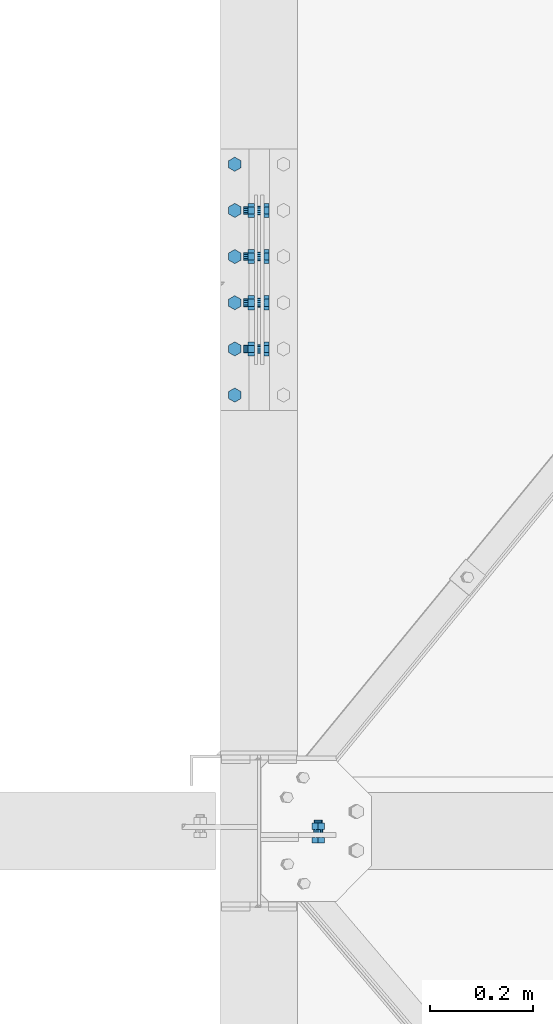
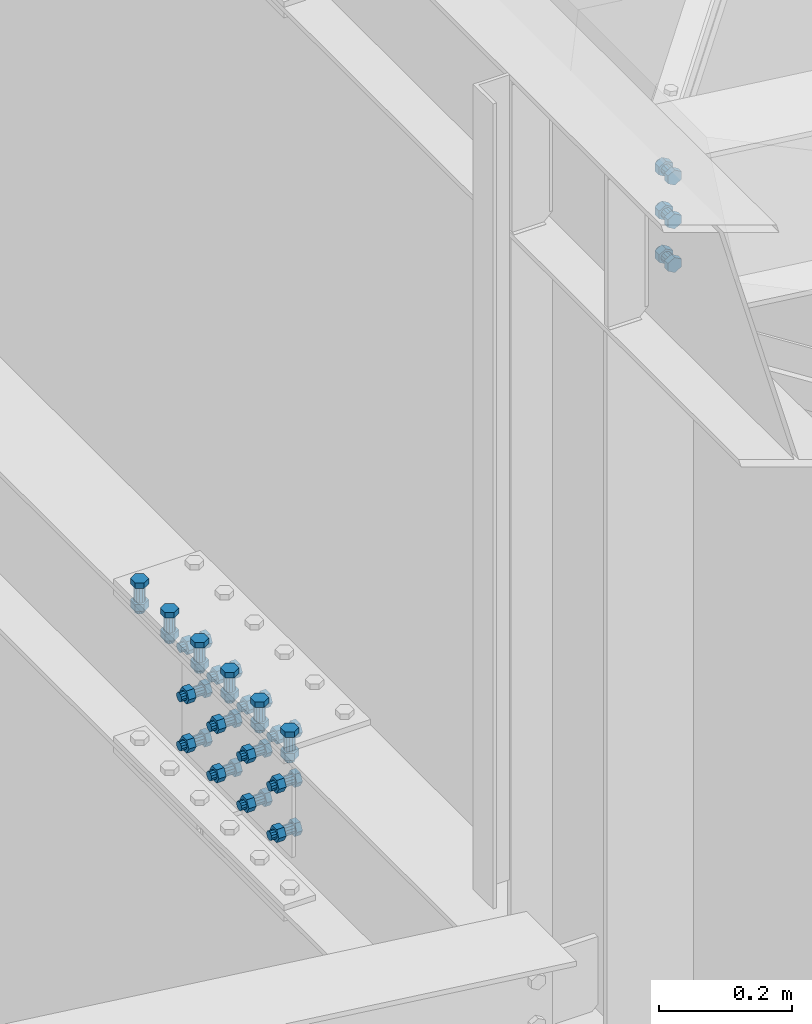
# One storey, part 375 of 3134: 5 mechanical fasteners, 3 elements without a shape of their own.
"""IFC2X3 building model written with IfcOpenShell, lengths in millimetres."""

from ifc_helpers import new_model, si_unit, frame, origin_with_axes, place, context, subcontext, project, spatial, faceted_brep, source, transform, mapped, material, type_object, element, aggregate, save


model = new_model("IFC2X3")

# Units and contexts
model_context = context("Model", 3, precision=1e-05, world=origin_with_axes())
body_context = subcontext(model_context, "Body", "Model", "MODEL_VIEW")
ifc_project = project(units=[si_unit("LENGTHUNIT", "METRE", prefix="MILLI"), si_unit("AREAUNIT", "SQUARE_METRE"), si_unit("VOLUMEUNIT", "CUBIC_METRE"), si_unit("MASSUNIT", "GRAM", prefix="KILO"), si_unit("TIMEUNIT", "SECOND"), si_unit("PLANEANGLEUNIT", "RADIAN"), si_unit("SOLIDANGLEUNIT", "STERADIAN"), si_unit("THERMODYNAMICTEMPERATUREUNIT", "DEGREE_CELSIUS"), si_unit("LUMINOUSINTENSITYUNIT", "LUMEN")], contexts=[model_context])

# Site, building, storey
site_placement = place(None, origin_with_axes())
site = spatial("IfcSite", under=ifc_project, at=site_placement, CompositionType="ELEMENT")
building_placement = place(site_placement, origin_with_axes())
building = spatial("IfcBuilding", under=site, at=building_placement, Name="Undefined", CompositionType="ELEMENT")
storey_placement = place(building_placement, origin_with_axes())
storey = spatial("IfcBuildingStorey", under=building, at=storey_placement, Name="Undefined", CompositionType="ELEMENT", Elevation=0.0)

# Assembly, mechanical fastener
assembly_1_placement = place(storey_placement, origin_with_axes())
assembly_1 = element("IfcElementAssembly", 1, at=assembly_1_placement, inside=storey, Name="300", AssemblyPlace="NOTDEFINED", PredefinedType="RIGID_FRAME")
ifc_material = material(Name="8.8")
mechanical_fastener_type = type_object("IfcMechanicalFastenerType", Name="Bolt assembly")
shared_shape_1 = source(origin_with_axes(), body_context, "Body", "Brep", [
    faceted_brep([(13.856406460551, -23.0499999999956, 0.0), (6.92820323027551, -23.0499999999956, 12.0), (-6.92820323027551, -23.0499999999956, 12.0), (-13.856406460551, -23.0499999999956, 1.69692038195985e-15), (-6.92820323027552, -23.0499999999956, -12.0), (6.9282032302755, -23.0499999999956, -12.0), (6.9282032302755, -13.0499999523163, -12.0), (-6.92820323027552, -13.0499999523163, -12.0), (-13.856406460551, -13.0499999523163, 1.69692038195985e-15), (-6.92820323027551, -13.0499999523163, 12.0), (6.92820323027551, -13.0499999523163, 12.0), (13.856406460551, -13.0499999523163, 0.0), (8.0, -13.0499999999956, 0.0), (6.92820323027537, -13.0499999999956, 4.00000000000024), (3.99999999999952, -13.0499999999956, 6.92820323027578), (-8.29068785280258e-13, -13.0499999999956, 8.0), (-4.00000000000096, -13.0499999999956, 6.92820323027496), (-6.9282032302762, -13.0499999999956, 3.99999999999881), (-8.0, -13.0499999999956, -1.65813757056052e-12), (-6.92820323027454, -13.0499999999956, -4.00000000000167), (-3.99999999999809, -13.0499999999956, -6.92820323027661), (2.47832457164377e-12, -13.0499999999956, -8.0), (4.00000000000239, -13.0499999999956, -6.92820323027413), (6.92820323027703, -13.0499999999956, -3.99999999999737), (6.92820323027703, 21.9500000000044, -3.99999999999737), (4.00000000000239, 21.9500000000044, -6.92820323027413), (2.47832457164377e-12, 21.9500000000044, -8.0), (-3.99999999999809, 21.9500000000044, -6.92820323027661), (-6.92820323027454, 21.9500000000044, -4.00000000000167), (-8.0, 21.9500000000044, -1.65813757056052e-12), (-6.9282032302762, 21.9500000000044, 3.99999999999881), (-4.00000000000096, 21.9500000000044, 6.92820323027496), (-8.29068785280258e-13, 21.9500000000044, 8.0), (3.99999999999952, 21.9500000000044, 6.92820323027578), (6.92820323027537, 21.9500000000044, 4.00000000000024), (8.0, 21.9500000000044, 0.0), (13.856406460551, 3.04999995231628, 0.0), (6.92820323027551, 3.04999995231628, 12.0), (-6.92820323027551, 3.04999995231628, 12.0), (-13.856406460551, 3.04999995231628, 1.69692038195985e-15), (-6.92820323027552, 3.04999995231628, -12.0), (6.9282032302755, 3.04999995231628, -12.0), (6.9282032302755, 16.0499999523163, -12.0), (-6.92820323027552, 16.0499999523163, -12.0), (-13.856406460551, 16.0499999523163, 1.69692038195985e-15), (-6.92820323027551, 16.0499999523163, 12.0), (6.92820323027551, 16.0499999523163, 12.0), (13.856406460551, 16.0499999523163, 0.0)], [[[0, 1, 2, 3, 4, 5]], [[6, 7, 8, 9, 10, 11]], [[0, 11, 10, 1]], [[1, 10, 9, 2]], [[2, 9, 8, 3]], [[3, 8, 7, 4]], [[4, 7, 6, 5]], [[5, 6, 11, 0]], [[12, 13, 14, 15, 16, 17, 18, 19, 20, 21, 22, 23]], [[24, 25, 26, 27, 28, 29, 30, 31, 32, 33, 34, 35]], [[12, 35, 34, 13]], [[13, 34, 33, 14]], [[14, 33, 32, 15]], [[15, 32, 31, 16]], [[16, 31, 30, 17]], [[17, 30, 29, 18]], [[18, 29, 28, 19]], [[19, 28, 27, 20]], [[20, 27, 26, 21]], [[21, 26, 25, 22]], [[22, 25, 24, 23]], [[23, 24, 35, 12]], [[36, 37, 38, 39, 40, 41]], [[42, 43, 44, 45, 46, 47]], [[36, 47, 46, 37]], [[37, 46, 45, 38]], [[38, 45, 44, 39]], [[39, 44, 43, 40]], [[40, 43, 42, 41]], [[41, 42, 47, 36]]]),
    faceted_brep([(9.0, -12.9499999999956, 0.0), (7.79422863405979, -12.9499999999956, 4.50000000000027), (4.49999999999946, -12.9499999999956, 7.79422863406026), (-9.3270238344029e-13, -12.9499999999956, 9.0), (-4.50000000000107, -12.9499999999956, 7.79422863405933), (-7.79422863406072, -12.9499999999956, 4.49999999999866), (-9.0, -12.9499999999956, -1.86540476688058e-12), (-7.79422863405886, -12.9499999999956, -4.50000000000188), (-4.49999999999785, -12.9499999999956, -7.79422863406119), (2.78811514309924e-12, -12.9499999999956, -9.0), (4.50000000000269, -12.9499999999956, -7.7942286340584), (7.79422863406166, -12.9499999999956, -4.49999999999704), (7.79422863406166, -2.94999995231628, -4.49999999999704), (4.50000000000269, -2.94999995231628, -7.7942286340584), (2.78811514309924e-12, -2.94999995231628, -9.0), (-4.49999999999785, -2.94999995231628, -7.79422863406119), (-7.79422863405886, -2.94999995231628, -4.50000000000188), (-9.0, -2.94999995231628, -1.86540476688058e-12), (-7.79422863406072, -2.94999995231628, 4.49999999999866), (-4.50000000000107, -2.94999995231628, 7.79422863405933), (-9.3270238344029e-13, -2.94999995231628, 9.0), (4.49999999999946, -2.94999995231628, 7.79422863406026), (7.79422863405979, -2.94999995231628, 4.50000000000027), (9.0, -2.94999995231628, 0.0), (9.0, -3.14999995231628, 0.0), (7.79422863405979, -3.14999995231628, 4.50000000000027), (4.49999999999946, -3.14999995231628, 7.79422863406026), (-9.3270238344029e-13, -3.14999995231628, 9.0), (-4.50000000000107, -3.14999995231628, 7.79422863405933), (-7.79422863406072, -3.14999995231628, 4.49999999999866), (-9.0, -3.14999995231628, -1.86540476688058e-12), (-7.79422863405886, -3.14999995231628, -4.50000000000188), (-4.49999999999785, -3.14999995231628, -7.79422863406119), (2.78811514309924e-12, -3.14999995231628, -9.0), (4.50000000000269, -3.14999995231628, -7.7942286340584), (7.79422863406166, -3.14999995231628, -4.49999999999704), (7.79422863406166, 3.04999995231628, -4.49999999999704), (4.50000000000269, 3.04999995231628, -7.7942286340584), (2.78811514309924e-12, 3.04999995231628, -9.0), (-4.49999999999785, 3.04999995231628, -7.79422863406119), (-7.79422863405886, 3.04999995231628, -4.50000000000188), (-9.0, 3.04999995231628, -1.86540476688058e-12), (-7.79422863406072, 3.04999995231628, 4.49999999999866), (-4.50000000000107, 3.04999995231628, 7.79422863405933), (-9.3270238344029e-13, 3.04999995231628, 9.0), (4.49999999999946, 3.04999995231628, 7.79422863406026), (7.79422863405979, 3.04999995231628, 4.50000000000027), (9.0, 3.04999995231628, 0.0)], [[[0, 1, 2, 3, 4, 5, 6, 7, 8, 9, 10, 11]], [[12, 13, 14, 15, 16, 17, 18, 19, 20, 21, 22, 23]], [[0, 23, 22, 1]], [[1, 22, 21, 2]], [[2, 21, 20, 3]], [[3, 20, 19, 4]], [[4, 19, 18, 5]], [[5, 18, 17, 6]], [[6, 17, 16, 7]], [[7, 16, 15, 8]], [[8, 15, 14, 9]], [[9, 14, 13, 10]], [[10, 13, 12, 11]], [[11, 12, 23, 0]], [[24, 25, 26, 27, 28, 29, 30, 31, 32, 33, 34, 35]], [[36, 37, 38, 39, 40, 41, 42, 43, 44, 45, 46, 47]], [[24, 47, 46, 25]], [[25, 46, 45, 26]], [[26, 45, 44, 27]], [[27, 44, 43, 28]], [[28, 43, 42, 29]], [[29, 42, 41, 30]], [[30, 41, 40, 31]], [[31, 40, 39, 32]], [[32, 39, 38, 33]], [[33, 38, 37, 34]], [[34, 37, 36, 35]], [[35, 36, 47, 24]]]),
])
mechanical_fastener_1_placement = place(assembly_1_placement, frame((67665.0000000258, 27250.0, 5735.35014949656), z_axis=(1.0, 0.0, 0.0), x_axis=(0.0, 0.0, -1.0)))
mechanical_fastener_1 = element("IfcMechanicalFastener", 2, at=mechanical_fastener_1_placement, type_object=mechanical_fastener_type, material=ifc_material, Name="Bolt assembly", NominalDiameter=16.0, NominalLength=35.0, context=body_context, shape_type="MappedRepresentation", body=[
    mapped(shared_shape_1, transform((0.0, 0.0, 0.0))),
    mapped(shared_shape_1, transform((80.0, 0.0, 0.0))),
    mapped(shared_shape_1, transform((160.0, 0.0, 0.0))),
])
aggregate(assembly_1, [mechanical_fastener_1])

assembly_2_placement = place(storey_placement, origin_with_axes())
assembly_2 = element("IfcElementAssembly", 3, at=assembly_2_placement, inside=storey, Name="300", AssemblyPlace="NOTDEFINED", PredefinedType="RIGID_FRAME")
shared_shape_2 = source(origin_with_axes(), body_context, "Body", "Brep", [
    faceted_brep([(13.856406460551, -19.0499999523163, 0.0), (6.92820323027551, -19.0499999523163, 12.0), (-6.92820323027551, -19.0499999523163, 12.0), (-13.856406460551, -19.0499999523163, 1.69692038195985e-15), (-6.92820323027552, -19.0499999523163, -12.0), (6.9282032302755, -19.0499999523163, -12.0), (6.9282032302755, -9.04999995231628, -12.0), (-6.92820323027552, -9.04999995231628, -12.0), (-13.856406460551, -9.04999995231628, 1.69692038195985e-15), (-6.92820323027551, -9.04999995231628, 12.0), (6.92820323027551, -9.04999995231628, 12.0), (13.856406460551, -9.04999995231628, 0.0), (8.0, -9.04999995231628, 0.0), (6.92820323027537, -9.04999995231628, 4.00000000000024), (3.99999999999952, -9.04999995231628, 6.92820323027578), (-8.29068785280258e-13, -9.04999995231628, 8.0), (-4.00000000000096, -9.04999995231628, 6.92820323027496), (-6.9282032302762, -9.04999995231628, 3.99999999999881), (-8.0, -9.04999995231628, -1.65813757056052e-12), (-6.92820323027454, -9.04999995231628, -4.00000000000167), (-3.99999999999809, -9.04999995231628, -6.92820323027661), (2.47832457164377e-12, -9.04999995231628, -8.0), (4.00000000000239, -9.04999995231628, -6.92820323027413), (6.92820323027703, -9.04999995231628, -3.99999999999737), (6.92820323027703, 30.9500000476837, -3.99999999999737), (4.00000000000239, 30.9500000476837, -6.92820323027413), (2.47832457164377e-12, 30.9500000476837, -8.0), (-3.99999999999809, 30.9500000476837, -6.92820323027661), (-6.92820323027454, 30.9500000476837, -4.00000000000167), (-8.0, 30.9500000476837, -1.65813757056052e-12), (-6.9282032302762, 30.9500000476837, 3.99999999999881), (-4.00000000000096, 30.9500000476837, 6.92820323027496), (-8.29068785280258e-13, 30.9500000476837, 8.0), (3.99999999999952, 30.9500000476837, 6.92820323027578), (6.92820323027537, 30.9500000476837, 4.00000000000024), (8.0, 30.9500000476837, 0.0), (13.856406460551, 9.04999995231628, 0.0), (6.92820323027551, 9.04999995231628, 12.0), (-6.92820323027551, 9.04999995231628, 12.0), (-13.856406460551, 9.04999995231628, 1.69692038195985e-15), (-6.92820323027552, 9.04999995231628, -12.0), (6.9282032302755, 9.04999995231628, -12.0), (6.9282032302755, 22.0499999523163, -12.0), (-6.92820323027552, 22.0499999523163, -12.0), (-13.856406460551, 22.0499999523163, 1.69692038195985e-15), (-6.92820323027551, 22.0499999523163, 12.0), (6.92820323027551, 22.0499999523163, 12.0), (13.856406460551, 22.0499999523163, 0.0)], [[[0, 1, 2, 3, 4, 5]], [[6, 7, 8, 9, 10, 11]], [[0, 11, 10, 1]], [[1, 10, 9, 2]], [[2, 9, 8, 3]], [[3, 8, 7, 4]], [[4, 7, 6, 5]], [[5, 6, 11, 0]], [[12, 13, 14, 15, 16, 17, 18, 19, 20, 21, 22, 23]], [[24, 25, 26, 27, 28, 29, 30, 31, 32, 33, 34, 35]], [[12, 35, 34, 13]], [[13, 34, 33, 14]], [[14, 33, 32, 15]], [[15, 32, 31, 16]], [[16, 31, 30, 17]], [[17, 30, 29, 18]], [[18, 29, 28, 19]], [[19, 28, 27, 20]], [[20, 27, 26, 21]], [[21, 26, 25, 22]], [[22, 25, 24, 23]], [[23, 24, 35, 12]], [[36, 37, 38, 39, 40, 41]], [[42, 43, 44, 45, 46, 47]], [[36, 47, 46, 37]], [[37, 46, 45, 38]], [[38, 45, 44, 39]], [[39, 44, 43, 40]], [[40, 43, 42, 41]], [[41, 42, 47, 36]]]),
    faceted_brep([(9.0, -8.94999995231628, 0.0), (7.79422863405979, -8.94999995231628, 4.50000000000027), (4.49999999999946, -8.94999995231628, 7.79422863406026), (-9.3270238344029e-13, -8.94999995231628, 9.0), (-4.50000000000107, -8.94999995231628, 7.79422863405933), (-7.79422863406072, -8.94999995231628, 4.49999999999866), (-9.0, -8.94999995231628, -1.86540476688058e-12), (-7.79422863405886, -8.94999995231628, -4.50000000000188), (-4.49999999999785, -8.94999995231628, -7.79422863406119), (2.78811514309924e-12, -8.94999995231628, -9.0), (4.50000000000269, -8.94999995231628, -7.7942286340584), (7.79422863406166, -8.94999995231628, -4.49999999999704), (7.79422863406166, -2.94999995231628, -4.49999999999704), (4.50000000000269, -2.94999995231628, -7.7942286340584), (2.78811514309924e-12, -2.94999995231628, -9.0), (-4.49999999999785, -2.94999995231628, -7.79422863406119), (-7.79422863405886, -2.94999995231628, -4.50000000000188), (-9.0, -2.94999995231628, -1.86540476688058e-12), (-7.79422863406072, -2.94999995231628, 4.49999999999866), (-4.50000000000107, -2.94999995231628, 7.79422863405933), (-9.3270238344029e-13, -2.94999995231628, 9.0), (4.49999999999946, -2.94999995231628, 7.79422863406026), (7.79422863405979, -2.94999995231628, 4.50000000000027), (9.0, -2.94999995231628, 0.0), (9.0, -3.04999995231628, 0.0), (7.79422863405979, -3.04999995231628, 4.50000000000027), (4.49999999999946, -3.04999995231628, 7.79422863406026), (-9.3270238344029e-13, -3.04999995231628, 9.0), (-4.50000000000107, -3.04999995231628, 7.79422863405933), (-7.79422863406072, -3.04999995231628, 4.49999999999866), (-9.0, -3.04999995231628, -1.86540476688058e-12), (-7.79422863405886, -3.04999995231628, -4.50000000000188), (-4.49999999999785, -3.04999995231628, -7.79422863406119), (2.78811514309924e-12, -3.04999995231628, -9.0), (4.50000000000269, -3.04999995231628, -7.7942286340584), (7.79422863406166, -3.04999995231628, -4.49999999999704), (7.79422863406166, 3.04999995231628, -4.49999999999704), (4.50000000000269, 3.04999995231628, -7.7942286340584), (2.78811514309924e-12, 3.04999995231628, -9.0), (-4.49999999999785, 3.04999995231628, -7.79422863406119), (-7.79422863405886, 3.04999995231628, -4.50000000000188), (-9.0, 3.04999995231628, -1.86540476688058e-12), (-7.79422863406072, 3.04999995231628, 4.49999999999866), (-4.50000000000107, 3.04999995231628, 7.79422863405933), (-9.3270238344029e-13, 3.04999995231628, 9.0), (4.49999999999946, 3.04999995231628, 7.79422863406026), (7.79422863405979, 3.04999995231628, 4.50000000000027), (9.0, 3.04999995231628, 0.0), (9.0, 2.95000000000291, 0.0), (7.79422863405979, 2.95000000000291, 4.50000000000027), (4.49999999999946, 2.95000000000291, 7.79422863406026), (-9.3270238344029e-13, 2.95000000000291, 9.0), (-4.50000000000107, 2.95000000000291, 7.79422863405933), (-7.79422863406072, 2.95000000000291, 4.49999999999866), (-9.0, 2.95000000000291, -1.86540476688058e-12), (-7.79422863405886, 2.95000000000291, -4.50000000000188), (-4.49999999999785, 2.95000000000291, -7.79422863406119), (2.78811514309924e-12, 2.95000000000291, -9.0), (4.50000000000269, 2.95000000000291, -7.7942286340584), (7.79422863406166, 2.95000000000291, -4.49999999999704), (7.79422863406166, 9.04999995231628, -4.49999999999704), (4.50000000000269, 9.04999995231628, -7.7942286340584), (2.78811514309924e-12, 9.04999995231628, -9.0), (-4.49999999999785, 9.04999995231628, -7.79422863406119), (-7.79422863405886, 9.04999995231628, -4.50000000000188), (-9.0, 9.04999995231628, -1.86540476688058e-12), (-7.79422863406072, 9.04999995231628, 4.49999999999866), (-4.50000000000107, 9.04999995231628, 7.79422863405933), (-9.3270238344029e-13, 9.04999995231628, 9.0), (4.49999999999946, 9.04999995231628, 7.79422863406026), (7.79422863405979, 9.04999995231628, 4.50000000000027), (9.0, 9.04999995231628, 0.0)], [[[0, 1, 2, 3, 4, 5, 6, 7, 8, 9, 10, 11]], [[12, 13, 14, 15, 16, 17, 18, 19, 20, 21, 22, 23]], [[0, 23, 22, 1]], [[1, 22, 21, 2]], [[2, 21, 20, 3]], [[3, 20, 19, 4]], [[4, 19, 18, 5]], [[5, 18, 17, 6]], [[6, 17, 16, 7]], [[7, 16, 15, 8]], [[8, 15, 14, 9]], [[9, 14, 13, 10]], [[10, 13, 12, 11]], [[11, 12, 23, 0]], [[24, 25, 26, 27, 28, 29, 30, 31, 32, 33, 34, 35]], [[36, 37, 38, 39, 40, 41, 42, 43, 44, 45, 46, 47]], [[24, 47, 46, 25]], [[25, 46, 45, 26]], [[26, 45, 44, 27]], [[27, 44, 43, 28]], [[28, 43, 42, 29]], [[29, 42, 41, 30]], [[30, 41, 40, 31]], [[31, 40, 39, 32]], [[32, 39, 38, 33]], [[33, 38, 37, 34]], [[34, 37, 36, 35]], [[35, 36, 47, 24]], [[48, 49, 50, 51, 52, 53, 54, 55, 56, 57, 58, 59]], [[60, 61, 62, 63, 64, 65, 66, 67, 68, 69, 70, 71]], [[48, 71, 70, 49]], [[49, 70, 69, 50]], [[50, 69, 68, 51]], [[51, 68, 67, 52]], [[52, 67, 66, 53]], [[53, 66, 65, 54]], [[54, 65, 64, 55]], [[55, 64, 63, 56]], [[56, 63, 62, 57]], [[57, 62, 61, 58]], [[58, 61, 60, 59]], [[59, 60, 71, 48]]]),
])
mechanical_fastener_2_placement = place(assembly_2_placement, frame((67550.0, 28369.9, 4088.5), z_axis=(0.0, 0.0, 1.0), x_axis=(0.0, 1.0, 0.0)))
mechanical_fastener_2 = element("IfcMechanicalFastener", 4, at=mechanical_fastener_2_placement, type_object=mechanical_fastener_type, material=ifc_material, Name="Bolt assembly", NominalDiameter=16.0, NominalLength=40.0, context=body_context, shape_type="MappedRepresentation", body=[
    mapped(shared_shape_2, transform((0.0, 0.0, -90.0))),
    mapped(shared_shape_2, transform((90.0, 0.0, -90.0))),
    mapped(shared_shape_2, transform((0.0, 0.0, 0.0))),
    mapped(shared_shape_2, transform((90.0, 0.0, 0.0))),
    mapped(shared_shape_2, transform((0.0, 0.0, 90.0))),
    mapped(shared_shape_2, transform((90.0, 0.0, 90.0))),
])

assembly_3_placement = place(storey_placement, origin_with_axes())
assembly_3 = element("IfcElementAssembly", 5, at=assembly_3_placement, inside=storey, Name="300", AssemblyPlace="NOTDEFINED", PredefinedType="RIGID_FRAME")
mechanical_fastener_3_placement = place(assembly_3_placement, frame((67550.0, 28189.9, 4088.5), z_axis=(0.0, 0.0, 1.0), x_axis=(0.0, 1.0, 0.0)))
mechanical_fastener_3 = element("IfcMechanicalFastener", 6, at=mechanical_fastener_3_placement, type_object=mechanical_fastener_type, material=ifc_material, Name="Bolt assembly", NominalDiameter=16.0, NominalLength=40.0, context=body_context, shape_type="MappedRepresentation", body=[
    mapped(shared_shape_2, transform((0.0, 0.0, -90.0))),
    mapped(shared_shape_2, transform((90.0, 0.0, -90.0))),
    mapped(shared_shape_2, transform((0.0, 0.0, 0.0))),
    mapped(shared_shape_2, transform((90.0, 0.0, 0.0))),
    mapped(shared_shape_2, transform((0.0, 0.0, 90.0))),
    mapped(shared_shape_2, transform((90.0, 0.0, 90.0))),
])

# Mechanical fastener
shared_shape_3 = source(origin_with_axes(), body_context, "Body", "Brep", [
    faceted_brep([(13.856406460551, -29.1999998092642, 0.0), (6.92820323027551, -29.1999998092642, 12.0), (-6.92820323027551, -29.1999998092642, 12.0), (-13.856406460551, -29.1999998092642, 1.69692038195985e-15), (-6.92820323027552, -29.1999998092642, -12.0), (6.9282032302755, -29.1999998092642, -12.0), (6.9282032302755, -19.199990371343, -12.0), (-6.92820323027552, -19.199990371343, -12.0), (-13.856406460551, -19.199990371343, 1.69692038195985e-15), (-6.92820323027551, -19.199990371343, 12.0), (6.92820323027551, -19.199990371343, 12.0), (13.856406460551, -19.199990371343, 0.0), (8.0, -19.1999998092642, 0.0), (6.92820323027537, -19.1999998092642, 4.00000000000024), (3.99999999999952, -19.1999998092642, 6.92820323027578), (-8.29068785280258e-13, -19.1999998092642, 8.0), (-4.00000000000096, -19.1999998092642, 6.92820323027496), (-6.9282032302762, -19.1999998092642, 3.99999999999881), (-8.0, -19.1999998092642, -1.65813757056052e-12), (-6.92820323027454, -19.1999998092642, -4.00000000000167), (-3.99999999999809, -19.1999998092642, -6.92820323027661), (2.47832457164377e-12, -19.1999998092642, -8.0), (4.00000000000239, -19.1999998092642, -6.92820323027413), (6.92820323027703, -19.1999998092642, -3.99999999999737), (6.92820323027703, 30.8000001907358, -3.99999999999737), (4.00000000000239, 30.8000001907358, -6.92820323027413), (2.47832457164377e-12, 30.8000001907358, -8.0), (-3.99999999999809, 30.8000001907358, -6.92820323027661), (-6.92820323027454, 30.8000001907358, -4.00000000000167), (-8.0, 30.8000001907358, -1.65813757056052e-12), (-6.9282032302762, 30.8000001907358, 3.99999999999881), (-4.00000000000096, 30.8000001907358, 6.92820323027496), (-8.29068785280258e-13, 30.8000001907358, 8.0), (3.99999999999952, 30.8000001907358, 6.92820323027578), (6.92820323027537, 30.8000001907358, 4.00000000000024), (8.0, 30.8000001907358, 0.0), (13.856406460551, 9.99999995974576, 0.0), (6.92820323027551, 9.99999995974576, 12.0), (-6.92820323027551, 9.99999995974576, 12.0), (-13.856406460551, 9.99999995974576, 1.69692038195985e-15), (-6.92820323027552, 9.99999995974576, -12.0), (6.9282032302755, 9.99999995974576, -12.0), (6.9282032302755, 22.9999913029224, -12.0), (-6.92820323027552, 22.9999913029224, -12.0), (-13.856406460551, 22.9999913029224, 1.69692038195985e-15), (-6.92820323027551, 22.9999913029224, 12.0), (6.92820323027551, 22.9999913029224, 12.0), (13.856406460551, 22.9999913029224, 0.0)], [[[0, 1, 2, 3, 4, 5]], [[6, 7, 8, 9, 10, 11]], [[0, 11, 10, 1]], [[1, 10, 9, 2]], [[2, 9, 8, 3]], [[3, 8, 7, 4]], [[4, 7, 6, 5]], [[5, 6, 11, 0]], [[12, 13, 14, 15, 16, 17, 18, 19, 20, 21, 22, 23]], [[24, 25, 26, 27, 28, 29, 30, 31, 32, 33, 34, 35]], [[12, 35, 34, 13]], [[13, 34, 33, 14]], [[14, 33, 32, 15]], [[15, 32, 31, 16]], [[16, 31, 30, 17]], [[17, 30, 29, 18]], [[18, 29, 28, 19]], [[19, 28, 27, 20]], [[20, 27, 26, 21]], [[21, 26, 25, 22]], [[22, 25, 24, 23]], [[23, 24, 35, 12]], [[36, 37, 38, 39, 40, 41]], [[42, 43, 44, 45, 46, 47]], [[36, 47, 46, 37]], [[37, 46, 45, 38]], [[38, 45, 44, 39]], [[39, 44, 43, 40]], [[40, 43, 42, 41]], [[41, 42, 47, 36]]]),
    faceted_brep([(9.0, -19.0999998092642, 0.0), (7.79422863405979, -19.0999998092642, 4.50000000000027), (4.49999999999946, -19.0999998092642, 7.79422863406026), (-9.3270238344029e-13, -19.0999998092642, 9.0), (-4.50000000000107, -19.0999998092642, 7.79422863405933), (-7.79422863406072, -19.0999998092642, 4.49999999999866), (-9.0, -19.0999998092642, -1.86540476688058e-12), (-7.79422863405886, -19.0999998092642, -4.50000000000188), (-4.49999999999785, -19.0999998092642, -7.79422863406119), (2.78811514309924e-12, -19.0999998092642, -9.0), (4.50000000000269, -19.0999998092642, -7.7942286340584), (7.79422863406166, -19.0999998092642, -4.49999999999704), (7.79422863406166, -9.09999037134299, -4.49999999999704), (4.50000000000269, -9.09999037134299, -7.7942286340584), (2.78811514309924e-12, -9.09999037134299, -9.0), (-4.49999999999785, -9.09999037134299, -7.79422863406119), (-7.79422863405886, -9.09999037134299, -4.50000000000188), (-9.0, -9.09999037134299, -1.86540476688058e-12), (-7.79422863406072, -9.09999037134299, 4.49999999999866), (-4.50000000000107, -9.09999037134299, 7.79422863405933), (-9.3270238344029e-13, -9.09999037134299, 9.0), (4.49999999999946, -9.09999037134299, 7.79422863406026), (7.79422863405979, -9.09999037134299, 4.50000000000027), (9.0, -9.09999037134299, 0.0), (9.0, -9.20000008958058, 0.0), (7.79422863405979, -9.20000008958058, 4.50000000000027), (4.49999999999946, -9.20000008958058, 7.79422863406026), (-9.3270238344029e-13, -9.20000008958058, 9.0), (-4.50000000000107, -9.20000008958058, 7.79422863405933), (-7.79422863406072, -9.20000008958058, 4.49999999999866), (-9.0, -9.20000008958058, -1.86540476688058e-12), (-7.79422863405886, -9.20000008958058, -4.50000000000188), (-4.49999999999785, -9.20000008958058, -7.79422863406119), (2.78811514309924e-12, -9.20000008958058, -9.0), (4.50000000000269, -9.20000008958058, -7.7942286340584), (7.79422863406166, -9.20000008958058, -4.49999999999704), (7.79422863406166, -3.46568413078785e-07, -4.49999999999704), (4.50000000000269, -3.46568413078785e-07, -7.7942286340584), (2.78811514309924e-12, -3.46568413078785e-07, -9.0), (-4.49999999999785, -3.46568413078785e-07, -7.79422863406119), (-7.79422863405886, -3.46568413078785e-07, -4.50000000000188), (-9.0, -3.46568413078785e-07, -1.86540476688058e-12), (-7.79422863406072, -3.46568413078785e-07, 4.49999999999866), (-4.50000000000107, -3.46568413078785e-07, 7.79422863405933), (-9.3270238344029e-13, -3.46568413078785e-07, 9.0), (4.49999999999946, -3.46568413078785e-07, 7.79422863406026), (7.79422863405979, -3.46568413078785e-07, 4.50000000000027), (9.0, -3.46568413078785e-07, 0.0), (9.0, -0.1, 0.0), (7.79422863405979, -0.1, 4.50000000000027), (4.49999999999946, -0.1, 7.79422863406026), (-9.3270238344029e-13, -0.1, 9.0), (-4.50000000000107, -0.1, 7.79422863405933), (-7.79422863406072, -0.1, 4.49999999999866), (-9.0, -0.1, -1.86540476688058e-12), (-7.79422863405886, -0.1, -4.50000000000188), (-4.49999999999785, -0.1, -7.79422863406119), (2.78811514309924e-12, -0.1, -9.0), (4.50000000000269, -0.1, -7.7942286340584), (7.79422863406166, -0.1, -4.49999999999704), (7.79422863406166, 9.99999995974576, -4.49999999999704), (4.50000000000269, 9.99999995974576, -7.7942286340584), (2.78811514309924e-12, 9.99999995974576, -9.0), (-4.49999999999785, 9.99999995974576, -7.79422863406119), (-7.79422863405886, 9.99999995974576, -4.50000000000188), (-9.0, 9.99999995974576, -1.86540476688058e-12), (-7.79422863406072, 9.99999995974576, 4.49999999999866), (-4.50000000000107, 9.99999995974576, 7.79422863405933), (-9.3270238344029e-13, 9.99999995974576, 9.0), (4.49999999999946, 9.99999995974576, 7.79422863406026), (7.79422863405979, 9.99999995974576, 4.50000000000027), (9.0, 9.99999995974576, 0.0)], [[[0, 1, 2, 3, 4, 5, 6, 7, 8, 9, 10, 11]], [[12, 13, 14, 15, 16, 17, 18, 19, 20, 21, 22, 23]], [[0, 23, 22, 1]], [[1, 22, 21, 2]], [[2, 21, 20, 3]], [[3, 20, 19, 4]], [[4, 19, 18, 5]], [[5, 18, 17, 6]], [[6, 17, 16, 7]], [[7, 16, 15, 8]], [[8, 15, 14, 9]], [[9, 14, 13, 10]], [[10, 13, 12, 11]], [[11, 12, 23, 0]], [[24, 25, 26, 27, 28, 29, 30, 31, 32, 33, 34, 35]], [[36, 37, 38, 39, 40, 41, 42, 43, 44, 45, 46, 47]], [[24, 47, 46, 25]], [[25, 46, 45, 26]], [[26, 45, 44, 27]], [[27, 44, 43, 28]], [[28, 43, 42, 29]], [[29, 42, 41, 30]], [[30, 41, 40, 31]], [[31, 40, 39, 32]], [[32, 39, 38, 33]], [[33, 38, 37, 34]], [[34, 37, 36, 35]], [[35, 36, 47, 24]], [[48, 49, 50, 51, 52, 53, 54, 55, 56, 57, 58, 59]], [[60, 61, 62, 63, 64, 65, 66, 67, 68, 69, 70, 71]], [[48, 71, 70, 49]], [[49, 70, 69, 50]], [[50, 69, 68, 51]], [[51, 68, 67, 52]], [[52, 67, 66, 53]], [[53, 66, 65, 54]], [[54, 65, 64, 55]], [[55, 64, 63, 56]], [[56, 63, 62, 57]], [[57, 62, 61, 58]], [[58, 61, 60, 59]], [[59, 60, 71, 48]]]),
])
mechanical_fastener_4_placement = place(assembly_2_placement, frame((67502.5, 28369.9, 4227.80000019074), z_axis=(-1.0, 0.0, 0.0), x_axis=(0.0, 1.0, 0.0)))
mechanical_fastener_4 = element("IfcMechanicalFastener", 7, at=mechanical_fastener_4_placement, type_object=mechanical_fastener_type, material=ifc_material, Name="Bolt assembly", NominalDiameter=16.0, NominalLength=50.0, context=body_context, shape_type="MappedRepresentation", body=[
    mapped(shared_shape_3, transform((0.0, 0.0, 0.0))),
    mapped(shared_shape_3, transform((90.0, 0.0, 0.0))),
    mapped(shared_shape_3, transform((180.0, 0.0, 0.0))),
])

aggregate(assembly_2, [mechanical_fastener_2, mechanical_fastener_4])

mechanical_fastener_5_placement = place(assembly_3_placement, frame((67502.5, 28099.9, 4227.80000019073), z_axis=(-1.0, 0.0, 0.0), x_axis=(0.0, 1.0, 0.0)))
mechanical_fastener_5 = element("IfcMechanicalFastener", 8, at=mechanical_fastener_5_placement, type_object=mechanical_fastener_type, material=ifc_material, Name="Bolt assembly", NominalDiameter=16.0, NominalLength=50.0, context=body_context, shape_type="MappedRepresentation", body=[
    mapped(shared_shape_3, transform((0.0, 0.0, 0.0))),
    mapped(shared_shape_3, transform((90.0, 0.0, 0.0))),
    mapped(shared_shape_3, transform((180.0, 0.0, 0.0))),
])

aggregate(assembly_3, [mechanical_fastener_3, mechanical_fastener_5])

save(model, "model.ifc")
